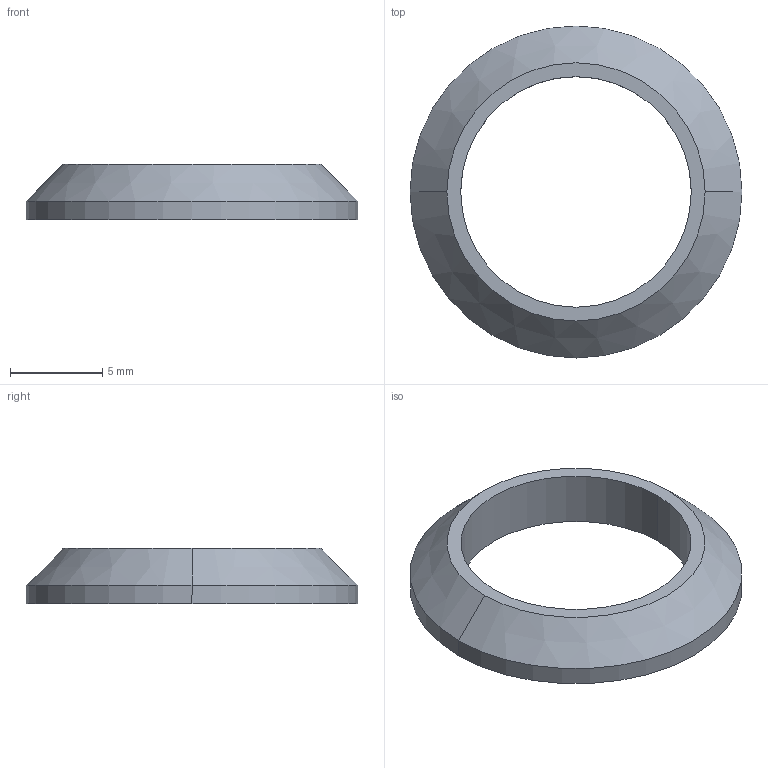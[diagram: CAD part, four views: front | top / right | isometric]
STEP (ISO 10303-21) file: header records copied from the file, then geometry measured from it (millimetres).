
FILE_DESCRIPTION (( 'STEP AP214' ), '1' );
FILE_NAME ('spacer3mm.STEP', '2025-10-12T09:05:31', ( '' ), ( '' ), 'SwSTEP 2.0', 'SolidWorks 2018', '' );
FILE_SCHEMA (( 'AUTOMOTIVE_DESIGN' ));
Length unit declared in the file: millimetre
Products named in the file (1): spacer3mm
Bounding box: 18 x 18 x 3 mm (x, y, z)
Volume: 290.5 mm3; surface area: 479.5 mm2
Topology: 1 solids, 1 shells, 8 faces, 16 edges, 10 vertices
Faces by surface type: cylinder 4, cone 2, plane 2
Entity records: 252 total; most frequent: DIRECTION 44, CARTESIAN_POINT 35, ORIENTED_EDGE 32, AXIS2_PLACEMENT_3D 19, EDGE_CURVE 16, VERTEX_POINT 10, EDGE_LOOP 10, CIRCLE 10
